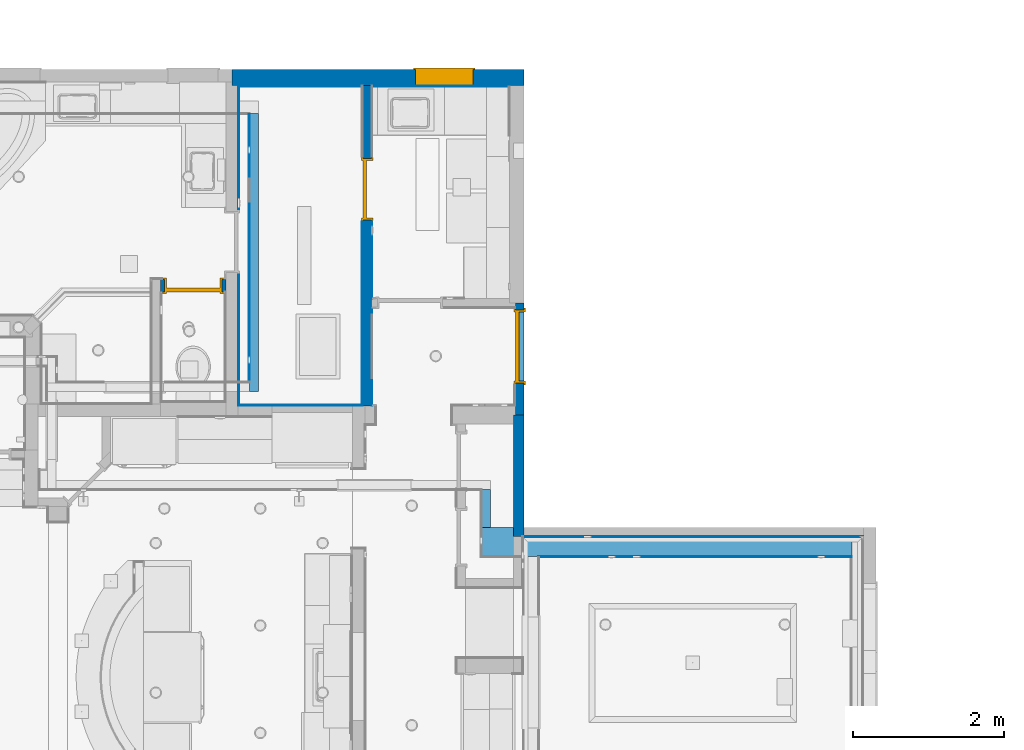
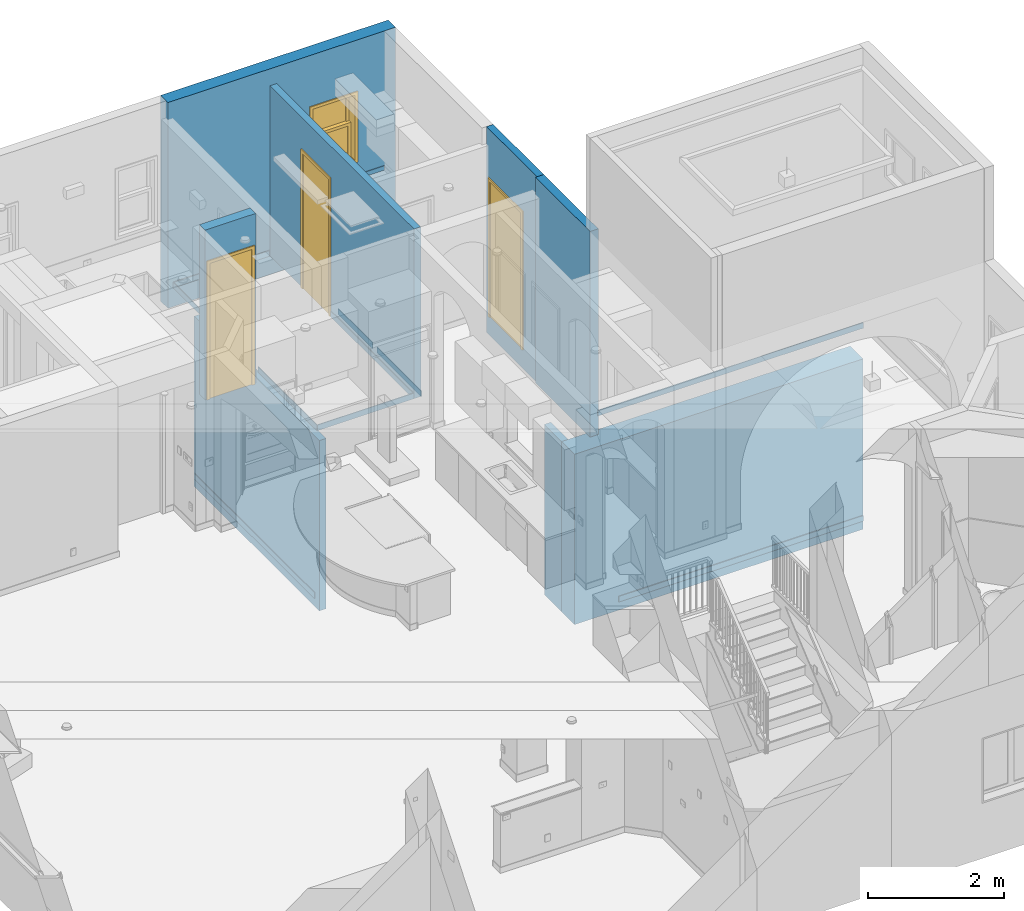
# One storey, part 12 of 60: 19 walls, 3 doors, 1 window, 4 openings.
"""IFC2X3 building model written with IfcOpenShell, lengths in feet."""

from ifc_helpers import new_model, entity, si_unit, converted_unit, direction, frame, frame_2d, origin, origin_2d_with_axis, place, context, subcontext, project, spatial, polyline, rectangle, outline, extrude, clip, bounded_halfspace, source, transform, mapped, material, material_list, layer, layer_set, layer_usage, type_object, type_shapes, element, fill, save


model = new_model("IFC2X3")

# Units and contexts
model_context = context("Model", 3, precision=0.0001, world=origin(), true_north=direction((6.123031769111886e-17, 1.0)))
plan_context = context("Plan", 3, precision=0.0001, world=origin(), true_north=direction((6.123031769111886e-17, 1.0)))
body_context = subcontext(model_context, "Body", "Model", "MODEL_VIEW")
ifc_project = project(units=[converted_unit("LENGTHUNIT", "FOOT", entity("IfcLengthMeasure", 0.3048), si_unit("LENGTHUNIT", "METRE"), dimensions=[1, 0, 0, 0, 0, 0, 0]), converted_unit("AREAUNIT", "SQUARE FOOT", entity("IfcAreaMeasure", 0.09290304), si_unit("AREAUNIT", "SQUARE_METRE"), dimensions=[2, 0, 0, 0, 0, 0, 0]), converted_unit("PLANEANGLEUNIT", "DEGREE", entity("IfcPlaneAngleMeasure", 0.017453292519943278), si_unit("PLANEANGLEUNIT", "RADIAN"), dimensions=[0, 0, 0, 0, 0, 0, 0])], contexts=[model_context, plan_context])

# Site, building, storey
site_placement = place(None, origin())
site = spatial("IfcSite", under=ifc_project, at=site_placement, Name="Default", CompositionType="ELEMENT")
building_placement = place(site_placement, origin())
building = spatial("IfcBuilding", under=site, at=building_placement, CompositionType="ELEMENT")
storey_placement = place(building_placement, origin())
storey = spatial("IfcBuildingStorey", under=building, at=storey_placement, Name="First floor", CompositionType="ELEMENT", Elevation=0.0)

# Wall, opening, door
ifc_material_1 = material(Name="Default New Material")
ifc_layer_1 = layer(ifc_material_1, 0.5416666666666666)
ifc_layer_set_1 = layer_set([ifc_layer_1], Name="Basic Wall:Wall_6.5\"")
ifc_layer_usage_1 = layer_usage(ifc_layer_set_1, "AXIS2", "NEGATIVE", 0.2708333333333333)
wall_type_1 = type_object("IfcWallType", Name="Basic Wall:Wall_6.5\"", PredefinedType="STANDARD", material=ifc_layer_set_1)
wall_1_placement = place(storey_placement, frame((4.583333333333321, 38.645488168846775, 10.666666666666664)))
wall_1 = element("IfcWallStandardCase", 1, at=wall_1_placement, inside=storey, type_object=wall_type_1, material=ifc_layer_usage_1, Name="Basic Wall:Wall_6.5\"", ObjectType="Basic Wall:Wall_6.5\"", context=body_context, shape_type="SweptSolid", body=[
    extrude(rectangle(XDim=2.833333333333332, YDim=0.5416666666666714, at=frame_2d((1.416666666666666, -1.1379786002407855e-15), x_axis=(-1.0, 0.0))), origin(), (0.0, 0.0, 1.0), 10.0),
])
opening_1_placement = place(wall_1_placement, frame((2.666666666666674, 0.2708333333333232, 0.0)))
opening_1 = element("IfcOpeningElement", 2, at=opening_1_placement, cuts=wall_1, Name="C_Single Door:2'-4\" X 8'-0\":1", ObjectType="Opening", context=body_context, shape_type="SweptSolid", body=[
    extrude(rectangle(XDim=2.4999999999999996, YDim=8.083333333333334, at=frame_2d((4.041666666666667, 1.25), x_axis=(0.0, 1.0))), frame((0.0, 0.0, 0.0), z_axis=(0.0, -1.0, 0.0), x_axis=(0.0, 0.0, 1.0)), (0.0, 0.0, 1.0), 0.5416666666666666),
])
door_style_1 = type_object("IfcDoorStyle", Name="C_Single Door:2'-4\" X 8'-0\"", ConstructionType="NOTDEFINED", OperationType="SINGLE_SWING_RIGHT", ParameterTakesPrecedence=False, Sizeable=False, material=ifc_material_1)
shared_shape_1 = source(origin(), body_context, "Body", "SweptSolid", [
    extrude(rectangle(XDim=2.333333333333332, YDim=0.16666666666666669, at=origin_2d_with_axis()), frame((1.2500000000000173, 0.08333333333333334, 0.0)), (0.0, 0.0, 1.0), 8.0),
    extrude(outline(polyline([(-3.958333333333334, 1.1666666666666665), (4.041666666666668, 1.1666666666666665), (4.041666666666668, 1.3333333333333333), (-4.125000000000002, 1.3333333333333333), (-4.125000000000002, -1.3333333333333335), (4.041666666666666, -1.3333333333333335), (4.041666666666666, -1.1666666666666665), (-3.958333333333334, -1.1666666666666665), (-3.958333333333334, 1.1666666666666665)])), frame((1.2500000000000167, 0.0, 4.041666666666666), z_axis=(0.0, -1.0, 0.0), x_axis=(0.0, 0.0, -1.0)), (0.0, 0.0, 1.0), 0.0625),
    extrude(outline(polyline([(-3.958333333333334, 1.1666666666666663), (4.041666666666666, 1.1666666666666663), (4.041666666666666, 1.3333333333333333), (-4.125, 1.3333333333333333), (-4.125, -1.3333333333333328), (4.041666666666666, -1.3333333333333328), (4.041666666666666, -1.1666666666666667), (-3.958333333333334, -1.1666666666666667), (-3.958333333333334, 1.1666666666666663)])), frame((1.2500000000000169, 0.6041666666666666, 4.041666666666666), z_axis=(0.0, -1.0, 0.0), x_axis=(0.0, 0.0, -1.0)), (0.0, 0.0, 1.0), 0.0625),
    extrude(outline(polyline([(1.1666666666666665, -4.020833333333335), (1.249999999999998, -4.020833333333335), (1.2499999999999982, 4.0625), (-1.2499999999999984, 4.0625), (-1.2499999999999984, -4.020833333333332), (-1.1666666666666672, -4.020833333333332), (-1.1666666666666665, 3.979166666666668), (1.1666666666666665, 3.979166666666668), (1.1666666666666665, -4.020833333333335)])), frame((1.2500000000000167, 0.5416666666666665, 4.020833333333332), z_axis=(0.0, -1.0, 0.0), x_axis=(1.0, 0.0, 0.0)), (0.0, 0.0, 1.0), 0.5416666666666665),
])
type_shapes(door_style_1, [shared_shape_1])
door_1_placement = place(opening_1_placement, frame((-2.5000000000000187, -0.5416666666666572, 0.0)))
door_1 = element("IfcDoor", 3, at=door_1_placement, inside=storey, type_object=door_style_1, material=ifc_material_1, Name="C_Single Door:2'-4\" X 8'-0\"", ObjectType="C_Single Door:2'-4\" X 8'-0\"", OverallHeight=8.083333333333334, OverallWidth=2.5, context=body_context, shape_type="MappedRepresentation", body=[
    mapped(shared_shape_1, transform((0.0, 0.0, 0.0), scale=1.0)),
])
fill(opening_1, door_1)

# Wall, opening, window
ifc_layer_2 = layer(ifc_material_1, 0.7083333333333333)
ifc_layer_set_2 = layer_set([ifc_layer_2], Name="Basic Wall:Wall_8.5\"")
ifc_layer_usage_2 = layer_usage(ifc_layer_set_2, "AXIS2", "NEGATIVE", 0.35416666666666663)
wall_type_2 = type_object("IfcWallType", Name="Basic Wall:Wall_8.5\"", PredefinedType="STANDARD", material=ifc_layer_set_2)
wall_2_placement = place(storey_placement, frame((7.687499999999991, 47.687154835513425, 9.541666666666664)))
wall_2 = element("IfcWallStandardCase", 4, at=wall_2_placement, inside=storey, type_object=wall_type_2, material=ifc_layer_usage_2, Name="Basic Wall:Wall_8.5\"", ObjectType="Basic Wall:Wall_8.5\"", context=body_context, shape_type="SweptSolid", body=[
    extrude(rectangle(XDim=12.6875, YDim=0.7083333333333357, at=frame_2d((6.34375, -2.942091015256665e-15), x_axis=(-1.0, 0.0))), origin(), (0.0, 0.0, 1.0), 12.125),
])
opening_2_placement = place(wall_2_placement, frame((7.979166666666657, -0.35416666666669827, 5.041666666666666)))
opening_2 = element("IfcOpeningElement", 5, at=opening_2_placement, cuts=wall_2, Name="C_Window Guilotine:2'-4\" X 3'-10\":1", ObjectType="Opening", context=body_context, shape_type="SweptSolid", body=[
    extrude(rectangle(XDim=2.4999999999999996, YDim=4.000000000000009, at=frame_2d((2.0000000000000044, 1.2500000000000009), x_axis=(0.0, -1.0))), frame((0.0, 0.0, 0.0), z_axis=(0.0, 1.0, 0.0), x_axis=(0.0, 0.0, 1.0)), (0.0, 0.0, 1.0), 0.7083333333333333),
])
ifc_material_2 = material(Name="Glass")
ifc_material_list = material_list([ifc_material_1, ifc_material_2])
window_style = type_object("IfcWindowStyle", Name="C_Window Guilotine:2'-4\" X 3'-10\"", ConstructionType="NOTDEFINED", OperationType="NOTDEFINED", ParameterTakesPrecedence=False, Sizeable=False, material=ifc_material_list)
shared_shape_2 = source(origin(), body_context, "Body", "SweptSolid", [
    extrude(outline(polyline([(-1.0, -1.1666666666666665), (1.0, -1.1666666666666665), (1.0, 1.1666666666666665), (-1.0, 1.1666666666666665), (-1.0, -1.1666666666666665)]), holes=[polyline([(-0.8333333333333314, -1.0), (-0.8333333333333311, 1.0), (0.8333333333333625, 1.0), (0.8333333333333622, -1.0), (-0.8333333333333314, -1.0)])]), frame((1.250000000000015, 0.6666666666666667, 2.9166666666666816), z_axis=(0.0, -1.0, 0.0), x_axis=(0.0, 0.0, -1.0)), (0.0, 0.0, 1.0), 0.1666666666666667),
    extrude(rectangle(XDim=0.04166666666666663, YDim=2.0, at=origin_2d_with_axis()), frame((1.2500000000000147, 0.4166666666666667, 1.3402777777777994), z_axis=(0.0, 0.0, 1.0), x_axis=(0.0, 1.0, 0.0)), (0.0, 0.0, 1.0), 0.04166666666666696),
    extrude(rectangle(XDim=0.04166666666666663, YDim=2.000000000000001, at=origin_2d_with_axis()), frame((1.2500000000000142, 0.4166666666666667, 0.7847222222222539), z_axis=(0.0, 0.0, 1.0), x_axis=(0.0, 1.0, 0.0)), (0.0, 0.0, 1.0), 0.04166666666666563),
    extrude(rectangle(XDim=0.04166666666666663, YDim=2.0, at=origin_2d_with_axis()), frame((1.2500000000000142, 0.5833333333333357, 3.1736111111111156), z_axis=(0.0, 0.0, 1.0), x_axis=(0.0, 1.0, 0.0)), (0.0, 0.0, 1.0), 0.04166666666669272),
    extrude(rectangle(XDim=0.04166666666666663, YDim=2.0, at=origin_2d_with_axis()), frame((1.2500000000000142, 0.5833333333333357, 2.618055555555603), z_axis=(0.0, 0.0, 1.0), x_axis=(0.0, 1.0, 0.0)), (0.0, 0.0, 1.0), 0.04166666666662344),
    extrude(rectangle(XDim=0.04166666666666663, YDim=0.04166666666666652, at=origin_2d_with_axis()), frame((0.9166666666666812, 0.5833333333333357, 2.083333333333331), z_axis=(0.0, 0.0, 1.0), x_axis=(0.0, 1.0, 0.0)), (0.0, 0.0, 1.0), 1.666666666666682),
    extrude(rectangle(XDim=0.04166666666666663, YDim=0.04166666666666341, at=origin_2d_with_axis()), frame((1.5833333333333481, 0.5833333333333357, 2.0833333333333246), z_axis=(0.0, 0.0, 1.0), x_axis=(0.0, 1.0, 0.0)), (0.0, 0.0, 1.0), 1.66666666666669),
    extrude(rectangle(XDim=0.04166666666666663, YDim=1.9999999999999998, at=frame_2d((0.0, 1.1102230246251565e-16), x_axis=(1.0, 0.0))), frame((1.2500000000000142, 0.5833333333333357, 2.0833333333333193), z_axis=(0.0, 0.0, 1.0), x_axis=(0.0, 1.0, 0.0)), (0.0, 0.0, 1.0), 1.6666666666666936),
    extrude(rectangle(XDim=0.04166666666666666, YDim=0.04166666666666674, at=origin_2d_with_axis()), frame((0.9166666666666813, 0.416666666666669, 0.2500000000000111), z_axis=(0.0, 0.0, 1.0), x_axis=(0.0, 1.0, 0.0)), (0.0, 0.0, 1.0), 1.66666666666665),
    extrude(rectangle(XDim=0.04166666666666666, YDim=0.04166666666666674, at=origin_2d_with_axis()), frame((1.5833333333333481, 0.416666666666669, 0.2500000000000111), z_axis=(0.0, 0.0, 1.0), x_axis=(0.0, 1.0, 0.0)), (0.0, 0.0, 1.0), 1.66666666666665),
    extrude(rectangle(XDim=0.04166666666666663, YDim=1.9999999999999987, at=origin_2d_with_axis()), frame((1.2500000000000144, 0.41666666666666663, 0.25000000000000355), z_axis=(0.0, 0.0, 1.0), x_axis=(0.0, 1.0, 0.0)), (0.0, 0.0, 1.0), 1.6666666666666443),
    extrude(outline(polyline([(-1.166666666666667, -1.0), (1.166666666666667, -1.0), (1.1666666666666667, 1.0), (-1.166666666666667, 1.0), (-1.166666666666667, -1.0)]), holes=[polyline([(1.0, -0.8333333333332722), (-1.0, -0.8333333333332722), (-1.0, 0.8333333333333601), (1.0, 0.8333333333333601), (1.0, -0.8333333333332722)])]), frame((1.2500000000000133, 0.5, 1.0833333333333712), z_axis=(0.0, -1.0, 0.0), x_axis=(-1.0, 0.0, 0.0)), (0.0, 0.0, 1.0), 0.16666666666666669),
    extrude(outline(polyline([(-1.333333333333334, -2.083333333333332), (1.333333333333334, -2.083333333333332), (1.333333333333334, 2.083333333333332), (-1.3333333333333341, 2.083333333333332), (-1.333333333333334, -2.083333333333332)]), holes=[polyline([(-1.1666666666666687, -1.916666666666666), (-1.1666666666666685, 1.9166666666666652), (1.1666666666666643, 1.9166666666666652), (1.1666666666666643, -1.916666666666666), (-1.1666666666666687, -1.916666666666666)])]), frame((1.2500000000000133, 0.0, 2.0), z_axis=(0.0, -1.0, 0.0), x_axis=(-1.0, 0.0, 0.0)), (0.0, 0.0, 1.0), 0.0625),
    extrude(outline(polyline([(-1.3333333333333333, -2.083333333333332), (1.3333333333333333, -2.083333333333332), (1.3333333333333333, 2.083333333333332), (-1.3333333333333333, 2.083333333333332), (-1.3333333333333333, -2.083333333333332)]), holes=[polyline([(-1.1666666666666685, -1.9166666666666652), (-1.1666666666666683, 1.916666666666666), (1.1666666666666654, 1.916666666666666), (1.1666666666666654, -1.9166666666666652), (-1.1666666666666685, -1.9166666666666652)])]), frame((1.2500000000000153, 0.7708333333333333, 2.0), z_axis=(0.0, -1.0, 0.0), x_axis=(-1.0, 0.0, 0.0)), (0.0, 0.0, 1.0), 0.0625),
    extrude(outline(polyline([(-2.0, -1.2499999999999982), (2.0, -1.2499999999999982), (2.0, 1.2499999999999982), (-2.0, 1.2499999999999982), (-2.0, -1.2499999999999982)]), holes=[polyline([(-1.9166666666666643, 1.1666666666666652), (1.9166666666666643, 1.1666666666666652), (1.9166666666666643, -1.1666666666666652), (-1.9166666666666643, -1.1666666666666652), (-1.9166666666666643, 1.1666666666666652)])]), frame((1.2500000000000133, 0.7083333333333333, 2.0), z_axis=(0.0, -1.0, 0.0), x_axis=(0.0, 0.0, -1.0)), (0.0, 0.0, 1.0), 0.7083333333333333),
])
type_shapes(window_style, [shared_shape_2])
window_placement = place(opening_2_placement, origin())
window = element("IfcWindow", 6, at=window_placement, inside=storey, type_object=window_style, material=ifc_material_list, Name="C_Window Guilotine:2'-4\" X 3'-10\"", ObjectType="C_Window Guilotine:2'-4\" X 3'-10\"", OverallHeight=4.000000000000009, OverallWidth=2.5000000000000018, context=body_context, shape_type="MappedRepresentation", body=[
    mapped(shared_shape_2, transform((0.0, 0.0, 0.0), scale=1.0)),
])
fill(opening_2, window)

# Wall, opening, door
ifc_layer_3 = layer(ifc_material_1, 0.375)
ifc_layer_set_3 = layer_set([ifc_layer_3], Name="Basic Wall:Wall_4.5\"")
ifc_layer_usage_3 = layer_usage(ifc_layer_set_3, "AXIS2", "NEGATIVE", 0.1875)
wall_type_3 = type_object("IfcWallType", Name="Basic Wall:Wall_4.5\"", PredefinedType="STANDARD", material=ifc_layer_set_3)
wall_3_placement = place(storey_placement, frame((20.187499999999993, 37.895488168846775, 9.541666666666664), z_axis=(0.0, 0.0, 1.0), x_axis=(0.0, -1.0, 0.0)))
wall_3 = element("IfcWallStandardCase", 7, at=wall_3_placement, inside=storey, type_object=wall_type_3, material=ifc_layer_usage_3, Name="Basic Wall:Wall_4.5\"", ObjectType="Basic Wall:Wall_4.5\"", context=body_context, shape_type="SweptSolid", body=[
    extrude(rectangle(XDim=4.875000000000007, YDim=0.375, at=frame_2d((2.4375000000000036, 4.85722573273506e-16), x_axis=(-1.0, 0.0))), origin(), (0.0, 0.0, 1.0), 12.125),
])
opening_3_placement = place(wall_3_placement, frame((3.4791666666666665, 0.1874999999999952, 1.1250000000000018)))
opening_3 = element("IfcOpeningElement", 8, at=opening_3_placement, cuts=wall_3, Name="C_Single Door:3'-0\" X 8'-0\":1", ObjectType="Opening", context=body_context, shape_type="SweptSolid", body=[
    extrude(rectangle(XDim=3.166666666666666, YDim=8.083333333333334, at=frame_2d((4.041666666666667, 1.583333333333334), x_axis=(0.0, -1.0))), frame((0.0, 0.0, 0.0), z_axis=(0.0, -1.0, 0.0), x_axis=(0.0, 0.0, 1.0)), (0.0, 0.0, 1.0), 0.375),
])
door_style_2 = type_object("IfcDoorStyle", Name="C_Single Door:3'-0\" X 8'-0\"", ConstructionType="NOTDEFINED", OperationType="SINGLE_SWING_LEFT", ParameterTakesPrecedence=False, Sizeable=False, material=ifc_material_1)
shared_shape_3 = source(origin(), body_context, "Body", "SweptSolid", [
    extrude(rectangle(XDim=0.16666666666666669, YDim=2.999999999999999, at=origin_2d_with_axis()), frame((1.5833333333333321, 0.08333333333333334, 0.0), z_axis=(0.0, 0.0, 1.0), x_axis=(0.0, 1.0, 0.0)), (0.0, 0.0, 1.0), 8.0),
    extrude(outline(polyline([(-3.958333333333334, 1.4999999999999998), (4.041666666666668, 1.4999999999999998), (4.041666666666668, 1.6666666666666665), (-4.125000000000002, 1.6666666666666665), (-4.125000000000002, -1.6666666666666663), (4.041666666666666, -1.6666666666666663), (4.041666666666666, -1.4999999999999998), (-3.958333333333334, -1.4999999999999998), (-3.958333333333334, 1.4999999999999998)])), frame((1.583333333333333, -0.0625, 4.041666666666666), z_axis=(0.0, 1.0, 0.0), x_axis=(0.0, 0.0, -1.0)), (0.0, 0.0, 1.0), 0.0625),
    extrude(outline(polyline([(-3.958333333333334, 1.4999999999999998), (4.041666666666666, 1.4999999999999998), (4.041666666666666, 1.6666666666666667), (-4.125, 1.6666666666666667), (-4.125, -1.6666666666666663), (4.041666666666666, -1.6666666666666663), (4.041666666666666, -1.5000000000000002), (-3.958333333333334, -1.5000000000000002), (-3.958333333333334, 1.4999999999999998)])), frame((1.5833333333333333, 0.375, 4.041666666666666), z_axis=(0.0, 1.0, 0.0), x_axis=(0.0, 0.0, -1.0)), (0.0, 0.0, 1.0), 0.0625),
    extrude(outline(polyline([(-4.020833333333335, -1.5833333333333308), (4.062499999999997, -1.5833333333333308), (4.062499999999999, 1.5833333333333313), (-4.020833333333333, 1.5833333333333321), (-4.020833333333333, 1.4999999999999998), (3.979166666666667, 1.4999999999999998), (3.979166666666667, -1.4999999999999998), (-4.020833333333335, -1.4999999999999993), (-4.020833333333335, -1.5833333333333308)])), frame((1.5833333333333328, 0.0, 4.020833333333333), z_axis=(0.0, 1.0, 0.0), x_axis=(0.0, 0.0, 1.0)), (0.0, 0.0, 1.0), 0.375),
])
type_shapes(door_style_2, [shared_shape_3])
door_2_placement = place(opening_3_placement, frame((-3.1666666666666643, -0.37499999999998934, 0.0)))
door_2 = element("IfcDoor", 9, at=door_2_placement, inside=storey, type_object=door_style_2, material=ifc_material_1, Name="C_Single Door:3'-0\" X 8'-0\"", ObjectType="C_Single Door:3'-0\" X 8'-0\"", OverallHeight=8.083333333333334, OverallWidth=3.1666666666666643, context=body_context, shape_type="MappedRepresentation", body=[
    mapped(shared_shape_3, transform((0.0, 0.0, 0.0), scale=1.0)),
])
fill(opening_3, door_2)

ifc_layer_usage_4 = layer_usage(ifc_layer_set_3, "AXIS2", "NEGATIVE", 0.1875)
wall_4_placement = place(storey_placement, frame((13.562499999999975, 47.33298816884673, 10.666666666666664), z_axis=(0.0, 0.0, 1.0), x_axis=(0.0, -1.0, 0.0)))
wall_4 = element("IfcWallStandardCase", 10, at=wall_4_placement, inside=storey, type_object=wall_type_3, material=ifc_layer_usage_4, Name="Basic Wall:Wall_4.5\"", ObjectType="Basic Wall:Wall_4.5\"", context=body_context, shape_type="SweptSolid", body=[
    extrude(rectangle(XDim=13.916666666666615, YDim=0.375, at=frame_2d((6.958333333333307, -2.914335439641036e-16), x_axis=(1.0, 0.0))), origin(), (0.0, 0.0, 1.0), 10.0),
])
opening_4_placement = place(wall_4_placement, frame((5.833333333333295, 0.18749999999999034, 0.0)))
opening_4 = element("IfcOpeningElement", 11, at=opening_4_placement, cuts=wall_4, Name="C_Single Door:2'-6\" X 8'-0\":1", ObjectType="Opening", context=body_context, shape_type="SweptSolid", body=[
    extrude(rectangle(XDim=2.666666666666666, YDim=8.083333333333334, at=frame_2d((4.041666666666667, 1.333333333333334), x_axis=(0.0, -1.0))), frame((0.0, 0.0, 0.0), z_axis=(0.0, -1.0, 0.0), x_axis=(0.0, 0.0, 1.0)), (0.0, 0.0, 1.0), 0.375),
])
door_style_3 = type_object("IfcDoorStyle", Name="C_Single Door:2'-6\" X 8'-0\"", ConstructionType="NOTDEFINED", OperationType="SINGLE_SWING_LEFT", ParameterTakesPrecedence=False, Sizeable=False, material=ifc_material_1)
shared_shape_4 = source(origin(), body_context, "Body", "SweptSolid", [
    extrude(rectangle(XDim=0.16666666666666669, YDim=2.499999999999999, at=origin_2d_with_axis()), frame((1.3333333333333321, 0.08333333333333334, 0.0), z_axis=(0.0, 0.0, 1.0), x_axis=(0.0, 1.0, 0.0)), (0.0, 0.0, 1.0), 8.0),
    extrude(outline(polyline([(-3.958333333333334, 1.2499999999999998), (4.041666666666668, 1.2499999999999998), (4.041666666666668, 1.4166666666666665), (-4.125000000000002, 1.4166666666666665), (-4.125000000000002, -1.4166666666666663), (4.041666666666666, -1.4166666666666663), (4.041666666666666, -1.2499999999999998), (-3.958333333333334, -1.2499999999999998), (-3.958333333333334, 1.2499999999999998)])), frame((1.333333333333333, -0.0625, 4.041666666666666), z_axis=(0.0, 1.0, 0.0), x_axis=(0.0, 0.0, -1.0)), (0.0, 0.0, 1.0), 0.0625),
    extrude(outline(polyline([(-3.958333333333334, 1.2499999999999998), (4.041666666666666, 1.2499999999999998), (4.041666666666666, 1.4166666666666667), (-4.125, 1.4166666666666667), (-4.125, -1.4166666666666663), (4.041666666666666, -1.4166666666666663), (4.041666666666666, -1.2500000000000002), (-3.958333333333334, -1.2500000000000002), (-3.958333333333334, 1.2499999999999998)])), frame((1.3333333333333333, 0.375, 4.041666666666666), z_axis=(0.0, 1.0, 0.0), x_axis=(0.0, 0.0, -1.0)), (0.0, 0.0, 1.0), 0.0625),
    extrude(outline(polyline([(-4.020833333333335, -1.3333333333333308), (4.062499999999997, -1.3333333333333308), (4.062499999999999, 1.3333333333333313), (-4.020833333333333, 1.3333333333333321), (-4.020833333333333, 1.2499999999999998), (3.979166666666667, 1.2499999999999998), (3.979166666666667, -1.2499999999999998), (-4.020833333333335, -1.2499999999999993), (-4.020833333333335, -1.3333333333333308)])), frame((1.3333333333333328, 0.0, 4.020833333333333), z_axis=(0.0, 1.0, 0.0), x_axis=(0.0, 0.0, 1.0)), (0.0, 0.0, 1.0), 0.375),
])
type_shapes(door_style_3, [shared_shape_4])
door_3_placement = place(opening_4_placement, frame((-2.6666666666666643, -0.37499999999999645, 0.0)))
door_3 = element("IfcDoor", 12, at=door_3_placement, inside=storey, type_object=door_style_3, material=ifc_material_1, Name="C_Single Door:2'-6\" X 8'-0\"", ObjectType="C_Single Door:2'-6\" X 8'-0\"", OverallHeight=8.083333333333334, OverallWidth=2.6666666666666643, context=body_context, shape_type="MappedRepresentation", body=[
    mapped(shared_shape_4, transform((0.0, 0.0, 0.0), scale=1.0)),
])
fill(opening_4, door_3)

# Walls
ifc_layer_usage_5 = layer_usage(ifc_layer_set_3, "AXIS2", "POSITIVE", -0.1875)
wall_5_placement = place(storey_placement, frame((8.645833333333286, 34.04166666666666, -0.5), z_axis=(0.0, 0.0, 1.0), x_axis=(0.0, 1.0, 0.0)))
element("IfcWallStandardCase", 13, at=wall_5_placement, inside=storey, type_object=wall_type_3, material=ifc_layer_usage_5, Name="Basic Wall:Wall_4.5\"", ObjectType="Basic Wall:Wall_4.5\"", context=body_context, shape_type="SweptSolid", body=[
    extrude(rectangle(XDim=12.083333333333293, YDim=0.375, at=frame_2d((6.0416666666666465, 0.0), x_axis=(-1.0, 0.0))), origin(), (0.0, 0.0, 1.0), 10.041666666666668),
])
ifc_layer_usage_6 = layer_usage(ifc_layer_set_3, "AXIS2", "NEGATIVE", 0.1875)
wall_6_placement = place(storey_placement, frame((18.729166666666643, 29.7916666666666, -0.5), z_axis=(0.0, 0.0, 1.0), x_axis=(0.0, -1.0, 0.0)))
element("IfcWallStandardCase", 14, at=wall_6_placement, inside=storey, type_object=wall_type_3, material=ifc_layer_usage_6, Name="Basic Wall:Wall_4.5\"", ObjectType="Basic Wall:Wall_4.5\"", context=body_context, shape_type="SweptSolid", body=[
    extrude(rectangle(XDim=1.6666666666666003, YDim=0.375, at=frame_2d((0.8333333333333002, -3.7470027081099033e-16), x_axis=(-1.0, 0.0))), origin(), (0.0, 0.0, 1.0), 10.041666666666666),
])
ifc_layer_4 = layer(ifc_material_1, 0.45833333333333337)
ifc_layer_set_4 = layer_set([ifc_layer_4], Name="Basic Wall:Wall_5.5\"")
ifc_layer_usage_7 = layer_usage(ifc_layer_set_4, "AXIS2", "NEGATIVE", 0.22916666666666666)
wall_type_4 = type_object("IfcWallType", Name="Basic Wall:Wall_5.5\"", PredefinedType="STANDARD", material=ifc_layer_set_4)
wall_7_placement = place(storey_placement, frame((20.145833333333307, 33.02048816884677, 9.541666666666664), z_axis=(0.0, 0.0, 1.0), x_axis=(0.0, -1.0, 0.0)))
element("IfcWallStandardCase", 15, at=wall_7_placement, inside=storey, type_object=wall_type_4, material=ifc_layer_usage_7, Name="Basic Wall:Wall_5.5\"", ObjectType="Basic Wall:Wall_5.5\"", context=body_context, shape_type="SweptSolid", body=[
    extrude(rectangle(XDim=5.270488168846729, YDim=0.4583333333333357, at=frame_2d((2.6352440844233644, -1.3877787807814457e-17), x_axis=(-1.0, 0.0))), origin(), (0.0, 0.0, 1.0), 12.125),
])
ifc_layer_5 = layer(ifc_material_1, 1.25)
ifc_layer_set_5 = layer_set([ifc_layer_5], Name="Basic Wall:Wall_1'3\"")
ifc_layer_usage_8 = layer_usage(ifc_layer_set_5, "AXIS2", "POSITIVE", -0.625)
wall_type_5 = type_object("IfcWallType", Name="Basic Wall:Wall_1'3\"", PredefinedType="STANDARD", material=ifc_layer_set_5)
wall_8_placement = place(storey_placement, frame((34.624999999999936, 27.5, -0.5), z_axis=(0.0, 0.0, 1.0), x_axis=(-1.0, 0.0, 0.0)))
element("IfcWallStandardCase", 16, at=wall_8_placement, inside=storey, type_object=wall_type_5, material=ifc_layer_usage_8, Name="Basic Wall:Wall_1'3\"", ObjectType="Basic Wall:Wall_1'3\"", context=body_context, shape_type="SweptSolid", body=[
    extrude(rectangle(XDim=16.083333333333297, YDim=1.25, at=frame_2d((8.041666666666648, 0.0), x_axis=(-1.0, 0.0))), origin(), (0.0, 0.0, 1.0), 10.041666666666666),
])
ifc_layer_6 = layer(ifc_material_1, 0.041666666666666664)
ifc_layer_set_6 = layer_set([ifc_layer_6], Name="Basic Wall:Wall Border_T1")
ifc_layer_usage_9 = layer_usage(ifc_layer_set_6, "AXIS2", "POSITIVE", -0.020833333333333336)
wall_type_6 = type_object("IfcWallType", Name="Basic Wall:Wall Border_T1", PredefinedType="STANDARD", material=ifc_layer_set_6)
wall_9_placement = place(storey_placement, frame((21.0, 26.854166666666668, 0.0)))
element("IfcWallStandardCase", 17, at=wall_9_placement, inside=storey, type_object=wall_type_6, material=ifc_layer_usage_9, Name="Basic Wall:Wall Border_T1", ObjectType="Basic Wall:Wall Border_T1", context=body_context, shape_type="SweptSolid", body=[
    extrude(rectangle(XDim=13.624999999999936, YDim=0.0416666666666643, at=frame_2d((6.812499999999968, 0.0), x_axis=(-1.0, 0.0))), origin(), (0.0, 0.0, 1.0), 0.3333333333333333),
])
ifc_layer_usage_10 = layer_usage(ifc_layer_set_6, "AXIS2", "POSITIVE", -0.020833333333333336)
wall_10_placement = place(storey_placement, frame((8.437499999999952, 46.08333333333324, 0.0), z_axis=(0.0, 0.0, 1.0), x_axis=(0.0, -1.0, 0.0)))
element("IfcWallStandardCase", 18, at=wall_10_placement, inside=storey, type_object=wall_type_6, material=ifc_layer_usage_10, Name="Basic Wall:Wall Border_T1", ObjectType="Basic Wall:Wall Border_T1", context=body_context, shape_type="Clipping", body=[
    clip(clip(extrude(rectangle(XDim=11.624999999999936, YDim=0.04166666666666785, at=frame_2d((5.812499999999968, -6.938893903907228e-17), x_axis=(-1.0, 0.0))), origin(), (0.0, 0.0, 1.0), 0.3333333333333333), bounded_halfspace(frame((11.624999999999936, -0.020833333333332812, 0.3333333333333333), z_axis=(-1.0, 0.0, 0.0), x_axis=(0.0, -1.0, 0.0)), True, frame((11.624999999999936, -0.020833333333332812, 0.3333333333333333), z_axis=(-1.0, 0.0, 0.0), x_axis=(0.0, -1.0, 0.0)), polyline([(0.0, 0.0), (-0.041666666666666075, 0.0), (-0.041666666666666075, -0.3333333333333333), (0.0, -0.3333333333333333), (0.0, 0.0)]))), bounded_halfspace(frame((0.0, -0.020833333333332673, 0.0), z_axis=(1.0, 0.0, 0.0), x_axis=(0.0, 1.0, 0.0)), True, frame((0.0, -0.020833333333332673, 0.0), z_axis=(1.0, 0.0, 0.0), x_axis=(0.0, 1.0, 0.0)), polyline([(0.0, 0.0), (0.041666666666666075, 0.0), (0.041666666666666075, 0.3333333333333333), (0.0, 0.3333333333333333), (0.0, 0.0)]))),
])
ifc_layer_usage_11 = layer_usage(ifc_layer_set_6, "AXIS2", "NEGATIVE", 0.020833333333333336)
wall_11_placement = place(storey_placement, frame((13.77083333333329, 37.66632150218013, 10.666666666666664), z_axis=(0.0, 0.0, 1.0), x_axis=(0.0, -1.0, 0.0)))
element("IfcWallStandardCase", 19, at=wall_11_placement, inside=storey, type_object=wall_type_6, material=ifc_layer_usage_11, Name="Basic Wall:Wall Border_T1", ObjectType="Basic Wall:Wall Border_T1", context=body_context, shape_type="SweptSolid", body=[
    extrude(rectangle(XDim=4.250000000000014, YDim=0.04166666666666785, at=frame_2d((2.125000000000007, 0.0), x_axis=(-1.0, 0.0))), origin(), (0.0, 0.0, 1.0), 0.3333333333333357),
])
ifc_layer_usage_12 = layer_usage(ifc_layer_set_6, "AXIS2", "NEGATIVE", 0.020833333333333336)
wall_12_placement = place(storey_placement, frame((7.979166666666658, 39.124654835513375, 10.666666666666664), z_axis=(0.0, 0.0, 1.0), x_axis=(0.0, -1.0, 0.0)))
element("IfcWallStandardCase", 20, at=wall_12_placement, inside=storey, type_object=wall_type_6, material=ifc_layer_usage_12, Name="Basic Wall:Wall Border_T1", ObjectType="Basic Wall:Wall Border_T1", context=body_context, shape_type="SweptSolid", body=[
    extrude(rectangle(XDim=5.707988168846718, YDim=0.041666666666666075, at=frame_2d((2.853994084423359, 3.469446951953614e-17), x_axis=(-1.0, 0.0))), origin(), (0.0, 0.0, 1.0), 0.3333333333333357),
])
ifc_layer_usage_13 = layer_usage(ifc_layer_set_6, "AXIS2", "NEGATIVE", 0.020833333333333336)
wall_13_placement = place(storey_placement, frame((8.0, 33.437499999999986, 10.666666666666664)))
element("IfcWallStandardCase", 21, at=wall_13_placement, inside=storey, type_object=wall_type_6, material=ifc_layer_usage_13, Name="Basic Wall:Wall Border_T1", ObjectType="Basic Wall:Wall Border_T1", context=body_context, shape_type="SweptSolid", body=[
    extrude(rectangle(XDim=5.37499999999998, YDim=0.041666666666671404, at=frame_2d((2.68749999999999, 0.0), x_axis=(-1.0, 0.0))), origin(), (0.0, 0.0, 1.0), 0.3333333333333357),
])
ifc_layer_usage_14 = layer_usage(ifc_layer_set_6, "AXIS2", "NEGATIVE", 0.020833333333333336)
wall_14_placement = place(storey_placement, frame((13.35416666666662, 33.45833333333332, 10.666666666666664), z_axis=(0.0, 0.0, 1.0), x_axis=(0.0, 1.0, 0.0)))
element("IfcWallStandardCase", 22, at=wall_14_placement, inside=storey, type_object=wall_type_6, material=ifc_layer_usage_14, Name="Basic Wall:Wall Border_T1", ObjectType="Basic Wall:Wall Border_T1", context=body_context, shape_type="SweptSolid", body=[
    extrude(rectangle(XDim=7.957988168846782, YDim=0.04166666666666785, at=frame_2d((3.978994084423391, 0.0), x_axis=(-1.0, 0.0))), origin(), (0.0, 0.0, 1.0), 0.3333333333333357),
])
ifc_layer_usage_15 = layer_usage(ifc_layer_set_6, "AXIS2", "NEGATIVE", 0.020833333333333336)
wall_15_placement = place(storey_placement, frame((13.333333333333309, 47.31215483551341, 10.666666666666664), z_axis=(0.0, 0.0, 1.0), x_axis=(-1.0, 0.0, 0.0)))
element("IfcWallStandardCase", 23, at=wall_15_placement, inside=storey, type_object=wall_type_6, material=ifc_layer_usage_15, Name="Basic Wall:Wall Border_T1", ObjectType="Basic Wall:Wall Border_T1", context=body_context, shape_type="SweptSolid", body=[
    extrude(rectangle(XDim=5.333333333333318, YDim=0.041666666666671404, at=frame_2d((2.666666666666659, 0.0), x_axis=(-1.0, 0.0))), origin(), (0.0, 0.0, 1.0), 0.3333333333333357),
])
ifc_layer_usage_16 = layer_usage(ifc_layer_set_6, "AXIS2", "NEGATIVE", 0.020833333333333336)
wall_16_placement = place(storey_placement, frame((7.979166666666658, 47.33298816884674, 10.666666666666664), z_axis=(0.0, 0.0, 1.0), x_axis=(0.0, -1.0, 0.0)))
element("IfcWallStandardCase", 24, at=wall_16_placement, inside=storey, type_object=wall_type_6, material=ifc_layer_usage_16, Name="Basic Wall:Wall Border_T1", ObjectType="Basic Wall:Wall Border_T1", context=body_context, shape_type="SweptSolid", body=[
    extrude(rectangle(XDim=5.3750000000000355, YDim=0.041666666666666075, at=frame_2d((2.6875000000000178, 0.0), x_axis=(-1.0, 0.0))), origin(), (0.0, 0.0, 1.0), 0.3333333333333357),
])
ifc_layer_usage_17 = layer_usage(ifc_layer_set_6, "AXIS2", "NEGATIVE", 0.020833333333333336)
wall_17_placement = place(storey_placement, frame((13.770833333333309, 41.416321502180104, 10.666666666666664), z_axis=(0.0, 0.0, 1.0), x_axis=(0.0, -1.0, 0.0)))
element("IfcWallStandardCase", 25, at=wall_17_placement, inside=storey, type_object=wall_type_6, material=ifc_layer_usage_17, Name="Basic Wall:Wall Border_T1", ObjectType="Basic Wall:Wall Border_T1", context=body_context, shape_type="SweptSolid", body=[
    extrude(rectangle(XDim=3.3333333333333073, YDim=0.04166666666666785, at=frame_2d((1.6666666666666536, 0.0), x_axis=(-1.0, 0.0))), origin(), (0.0, 0.0, 1.0), 0.3333333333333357),
])
ifc_layer_usage_18 = layer_usage(ifc_layer_set_6, "AXIS2", "POSITIVE", -0.020833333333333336)
wall_18_placement = place(storey_placement, frame((20.33333333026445, 27.729166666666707, 10.666666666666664)))
element("IfcWallStandardCase", 26, at=wall_18_placement, inside=storey, type_object=wall_type_6, material=ifc_layer_usage_18, Name="Basic Wall:Wall Border_T1", ObjectType="Basic Wall:Wall Border_T1", context=body_context, shape_type="SweptSolid", body=[
    extrude(rectangle(XDim=14.791666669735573, YDim=0.0416666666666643, at=frame_2d((7.3958333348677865, 0.0), x_axis=(-1.0, 0.0))), origin(), (0.0, 0.0, 1.0), 0.3333333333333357),
])
ifc_layer_usage_19 = layer_usage(ifc_layer_set_6, "AXIS2", "NEGATIVE", 0.020833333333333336)
wall_19_placement = place(storey_placement, frame((13.791666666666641, 47.31215483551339, 13.5)))
element("IfcWallStandardCase", 27, at=wall_19_placement, inside=storey, type_object=wall_type_6, material=ifc_layer_usage_19, Name="Basic Wall:Wall Border_T1", ObjectType="Basic Wall:Wall Border_T1", context=body_context, shape_type="SweptSolid", body=[
    extrude(rectangle(XDim=5.958333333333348, YDim=0.041666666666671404, at=frame_2d((2.979166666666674, 0.0), x_axis=(-1.0, 0.0))), origin(), (0.0, 0.0, 1.0), 0.25),
])

save(model, "model.ifc")
